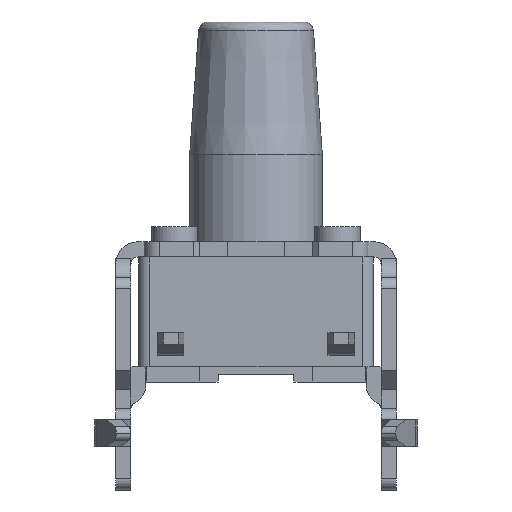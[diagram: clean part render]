
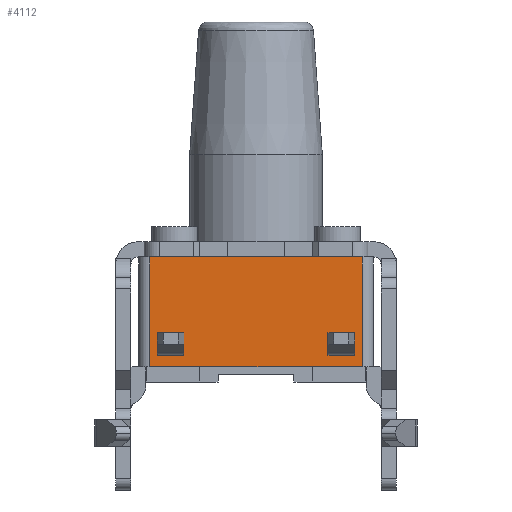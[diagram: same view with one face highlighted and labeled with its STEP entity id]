
A CAD part, front view. The second image highlights one B-rep face of the part: STEP entity #4112.
In plain terms, the highlighted planar face has unit normal (0, -1, 0).
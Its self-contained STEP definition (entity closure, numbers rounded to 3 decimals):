
#162 = VERTEX_POINT ( 'NONE', #5777 ) ;
#247 = DIRECTION ( 'NONE',  ( -1., 0., 0. ) ) ;
#252 = VECTOR ( 'NONE', #2787, 1000. ) ;
#314 = VERTEX_POINT ( 'NONE', #5574 ) ;
#354 = LINE ( 'NONE', #7074, #4804 ) ;
#369 = FACE_OUTER_BOUND ( 'NONE', #2770, .T. ) ;
#427 = ORIENTED_EDGE ( 'NONE', *, *, #3121, .T. ) ;
#507 = ORIENTED_EDGE ( 'NONE', *, *, #6124, .T. ) ;
#525 = LINE ( 'NONE', #6536, #698 ) ;
#544 = DIRECTION ( 'NONE',  ( 0., 0., 1. ) ) ;
#698 = VECTOR ( 'NONE', #2484, 1000. ) ;
#823 = CARTESIAN_POINT ( 'NONE',  ( 0., -3.1, -3. ) ) ;
#832 = CARTESIAN_POINT ( 'NONE',  ( 0., -3.1, -0.4 ) ) ;
#840 = CARTESIAN_POINT ( 'NONE',  ( 2.8, -3.1, -0.4 ) ) ;
#878 = CARTESIAN_POINT ( 'NONE',  ( -2.8, -3.1, -0.4 ) ) ;
#991 = AXIS2_PLACEMENT_3D ( 'NONE', #878, #5514, #2052 ) ;
#1014 = ORIENTED_EDGE ( 'NONE', *, *, #7064, .T. ) ;
#1033 = CARTESIAN_POINT ( 'NONE',  ( 1.9, -3.1, -1.85 ) ) ;
#1143 = VERTEX_POINT ( 'NONE', #6449 ) ;
#1174 = EDGE_CURVE ( 'NONE', #5049, #162, #1370, .T. ) ;
#1182 = VECTOR ( 'NONE', #7052, 1000. ) ;
#1190 = FACE_BOUND ( 'NONE', #4931, .T. ) ;
#1290 = CARTESIAN_POINT ( 'NONE',  ( -2.6, -3.1, -2.7 ) ) ;
#1370 = LINE ( 'NONE', #1290, #1182 ) ;
#1374 = LINE ( 'NONE', #832, #4244 ) ;
#1452 = VECTOR ( 'NONE', #2425, 1000. ) ;
#1480 = DIRECTION ( 'NONE',  ( 0., 0., -1. ) ) ;
#1529 = CARTESIAN_POINT ( 'NONE',  ( 1.9, -3.1, -2.7 ) ) ;
#1721 = CARTESIAN_POINT ( 'NONE',  ( 2.8, -3.1, -1.85 ) ) ;
#1896 = EDGE_CURVE ( 'NONE', #314, #162, #525, .T. ) ;
#1925 = FACE_BOUND ( 'NONE', #6322, .T. ) ;
#2052 = DIRECTION ( 'NONE',  ( 0., 0., -1. ) ) ;
#2265 = CARTESIAN_POINT ( 'NONE',  ( -2.8, -3.1, -0.4 ) ) ;
#2334 = LINE ( 'NONE', #3232, #6949 ) ;
#2425 = DIRECTION ( 'NONE',  ( 1., 0., 0. ) ) ;
#2444 = EDGE_CURVE ( 'NONE', #3360, #314, #4424, .T. ) ;
#2484 = DIRECTION ( 'NONE',  ( -1., 0., 0. ) ) ;
#2540 = CARTESIAN_POINT ( 'NONE',  ( 2.6, -3.1, -2.7 ) ) ;
#2591 = VERTEX_POINT ( 'NONE', #6854 ) ;
#2614 = ORIENTED_EDGE ( 'NONE', *, *, #2444, .T. ) ;
#2751 = LINE ( 'NONE', #1721, #5254 ) ;
#2770 = EDGE_LOOP ( 'NONE', ( #3435, #427, #3615, #1014 ) ) ;
#2787 = DIRECTION ( 'NONE',  ( 1., 0., 0. ) ) ;
#2940 = VERTEX_POINT ( 'NONE', #7363 ) ;
#2983 = EDGE_CURVE ( 'NONE', #2591, #5139, #3294, .T. ) ;
#3121 = EDGE_CURVE ( 'NONE', #6771, #6292, #2751, .T. ) ;
#3232 = CARTESIAN_POINT ( 'NONE',  ( -2.8, -3.1, -1.85 ) ) ;
#3294 = LINE ( 'NONE', #1033, #6177 ) ;
#3308 = ORIENTED_EDGE ( 'NONE', *, *, #5023, .T. ) ;
#3360 = VERTEX_POINT ( 'NONE', #4990 ) ;
#3420 = CARTESIAN_POINT ( 'NONE',  ( -2.8, -3.1, -3.3 ) ) ;
#3435 = ORIENTED_EDGE ( 'NONE', *, *, #4924, .T. ) ;
#3517 = CARTESIAN_POINT ( 'NONE',  ( 2.8, -3.1, -3.3 ) ) ;
#3552 = EDGE_CURVE ( 'NONE', #2940, #2591, #4878, .T. ) ;
#3615 = ORIENTED_EDGE ( 'NONE', *, *, #6987, .T. ) ;
#3688 = DIRECTION ( 'NONE',  ( 0., 0., -1. ) ) ;
#3842 = ORIENTED_EDGE ( 'NONE', *, *, #2983, .T. ) ;
#4086 = LINE ( 'NONE', #2540, #5625 ) ;
#4102 = ORIENTED_EDGE ( 'NONE', *, *, #6448, .T. ) ;
#4112 = ADVANCED_FACE ( 'NONE', ( #1190, #1925, #369 ), #4358, .T. ) ;
#4126 = ORIENTED_EDGE ( 'NONE', *, *, #1896, .T. ) ;
#4244 = VECTOR ( 'NONE', #247, 1000. ) ;
#4344 = LINE ( 'NONE', #5302, #1452 ) ;
#4358 = PLANE ( 'NONE',  #991 ) ;
#4424 = LINE ( 'NONE', #6593, #7310 ) ;
#4675 = VERTEX_POINT ( 'NONE', #3420 ) ;
#4764 = DIRECTION ( 'NONE',  ( 1., 0., 0. ) ) ;
#4804 = VECTOR ( 'NONE', #4764, 1000. ) ;
#4870 = DIRECTION ( 'NONE',  ( -1., 0., 0. ) ) ;
#4871 = LINE ( 'NONE', #5660, #252 ) ;
#4878 = LINE ( 'NONE', #823, #5073 ) ;
#4924 = EDGE_CURVE ( 'NONE', #4675, #6771, #354, .T. ) ;
#4931 = EDGE_LOOP ( 'NONE', ( #507, #2614, #4126, #6053 ) ) ;
#4954 = ORIENTED_EDGE ( 'NONE', *, *, #3552, .T. ) ;
#4990 = CARTESIAN_POINT ( 'NONE',  ( -1.9, -3.1, -2.7 ) ) ;
#5023 = EDGE_CURVE ( 'NONE', #1143, #2940, #4086, .T. ) ;
#5049 = VERTEX_POINT ( 'NONE', #6059 ) ;
#5073 = VECTOR ( 'NONE', #4870, 1000. ) ;
#5085 = DIRECTION ( 'NONE',  ( 0., 0., 1. ) ) ;
#5139 = VERTEX_POINT ( 'NONE', #1529 ) ;
#5254 = VECTOR ( 'NONE', #544, 1000. ) ;
#5302 = CARTESIAN_POINT ( 'NONE',  ( 0., -3.1, -2.7 ) ) ;
#5514 = DIRECTION ( 'NONE',  ( 0., -1., 0. ) ) ;
#5574 = CARTESIAN_POINT ( 'NONE',  ( -1.9, -3.1, -3. ) ) ;
#5625 = VECTOR ( 'NONE', #3688, 1000. ) ;
#5660 = CARTESIAN_POINT ( 'NONE',  ( 0., -3.1, -2.7 ) ) ;
#5777 = CARTESIAN_POINT ( 'NONE',  ( -2.6, -3.1, -3. ) ) ;
#6053 = ORIENTED_EDGE ( 'NONE', *, *, #1174, .F. ) ;
#6059 = CARTESIAN_POINT ( 'NONE',  ( -2.6, -3.1, -2.7 ) ) ;
#6124 = EDGE_CURVE ( 'NONE', #5049, #3360, #4344, .T. ) ;
#6177 = VECTOR ( 'NONE', #5085, 1000. ) ;
#6292 = VERTEX_POINT ( 'NONE', #840 ) ;
#6322 = EDGE_LOOP ( 'NONE', ( #4954, #3842, #4102, #3308 ) ) ;
#6448 = EDGE_CURVE ( 'NONE', #5139, #1143, #4871, .T. ) ;
#6449 = CARTESIAN_POINT ( 'NONE',  ( 2.6, -3.1, -2.7 ) ) ;
#6536 = CARTESIAN_POINT ( 'NONE',  ( 0., -3.1, -3. ) ) ;
#6578 = VERTEX_POINT ( 'NONE', #2265 ) ;
#6593 = CARTESIAN_POINT ( 'NONE',  ( -1.9, -3.1, -1.85 ) ) ;
#6771 = VERTEX_POINT ( 'NONE', #3517 ) ;
#6854 = CARTESIAN_POINT ( 'NONE',  ( 1.9, -3.1, -3. ) ) ;
#6949 = VECTOR ( 'NONE', #1480, 1000. ) ;
#6987 = EDGE_CURVE ( 'NONE', #6292, #6578, #1374, .T. ) ;
#7052 = DIRECTION ( 'NONE',  ( 0., 0., -1. ) ) ;
#7064 = EDGE_CURVE ( 'NONE', #6578, #4675, #2334, .T. ) ;
#7074 = CARTESIAN_POINT ( 'NONE',  ( 0., -3.1, -3.3 ) ) ;
#7177 = DIRECTION ( 'NONE',  ( 0., 0., -1. ) ) ;
#7310 = VECTOR ( 'NONE', #7177, 1000. ) ;
#7363 = CARTESIAN_POINT ( 'NONE',  ( 2.6, -3.1, -3. ) ) ;
